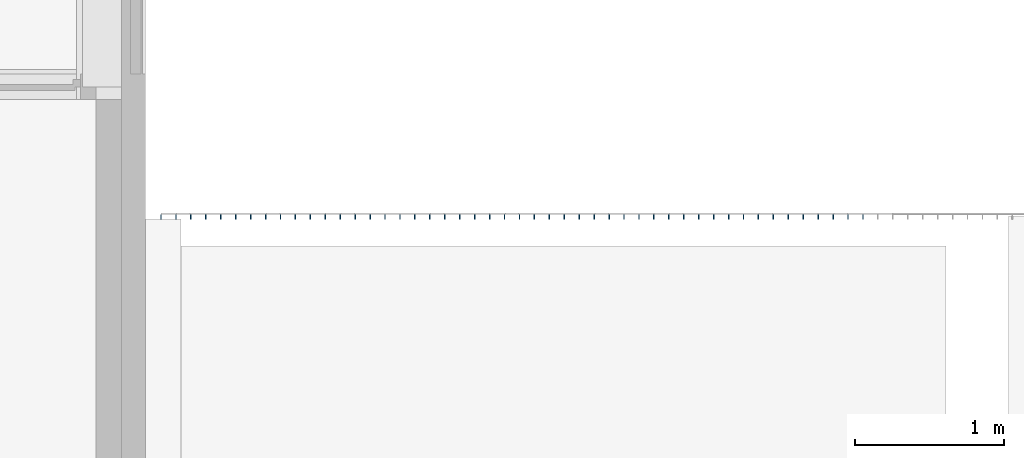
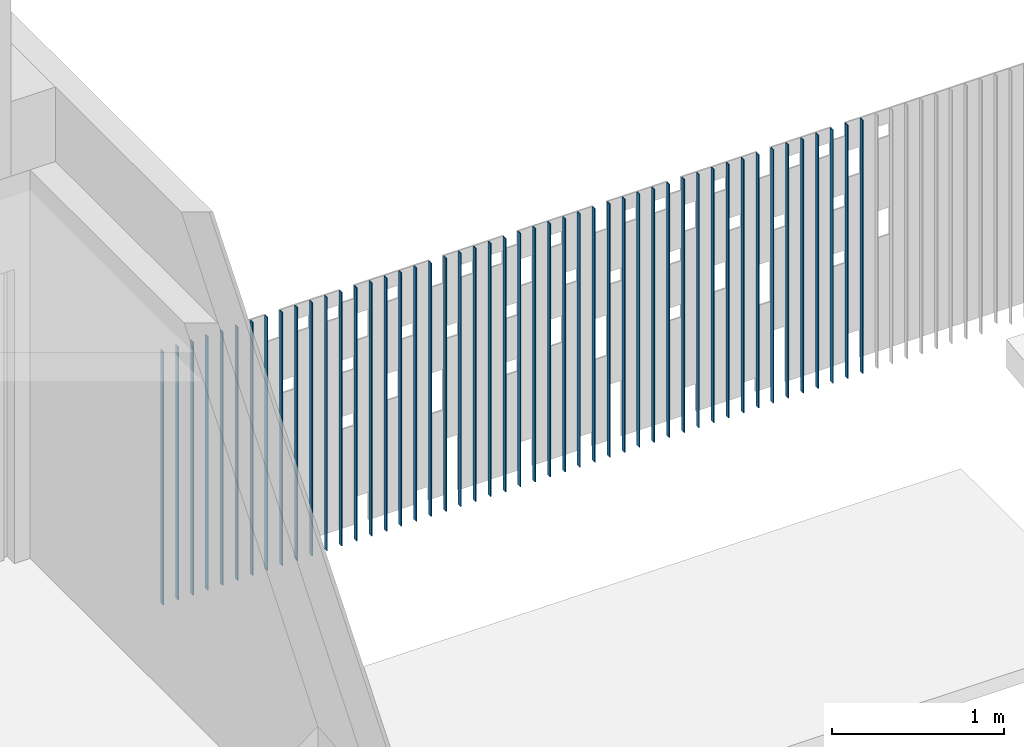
# One storey, part 1 of 51: 48 columns.
"""IFC2X3 building model written with IfcOpenShell, lengths in metres."""

from ifc_helpers import new_model, entity, si_unit, converted_unit, derived_unit, direction, frame, origin, origin_2d_with_axis, place, context, subcontext, project, spatial, rectangle, extrude, source, transform, mapped, material, type_object, type_shapes, element, save


model = new_model("IFC2X3")

# Units and contexts
model_context = context("Model", 3, precision=1e-05, world=origin(), true_north=direction((6.123031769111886e-17, 1.0)))
body_context = subcontext(model_context, "Body", "Model", "MODEL_VIEW")
ifc_project = project(units=[si_unit("LENGTHUNIT", "METRE"), si_unit("AREAUNIT", "SQUARE_METRE"), si_unit("VOLUMEUNIT", "CUBIC_METRE"), converted_unit("PLANEANGLEUNIT", "DEGREE", entity("IfcRatioMeasure", 0.017453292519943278), si_unit("PLANEANGLEUNIT", "RADIAN"), dimensions=[0, 0, 0, 0, 0, 0, 0]), si_unit("MASSUNIT", "GRAM", prefix="KILO"), derived_unit("MASSDENSITYUNIT", [(si_unit("MASSUNIT", "GRAM", prefix="KILO"), 1), (si_unit("LENGTHUNIT", "METRE"), -3)]), derived_unit("MOMENTOFINERTIAUNIT", [(si_unit("LENGTHUNIT", "METRE"), 4)]), si_unit("TIMEUNIT", "SECOND"), si_unit("FREQUENCYUNIT", "HERTZ"), si_unit("THERMODYNAMICTEMPERATUREUNIT", "DEGREE_CELSIUS"), derived_unit("THERMALTRANSMITTANCEUNIT", [(si_unit("MASSUNIT", "GRAM", prefix="KILO"), 1), (si_unit("THERMODYNAMICTEMPERATUREUNIT", "KELVIN"), -1), (si_unit("TIMEUNIT", "SECOND"), -3)]), derived_unit("THERMALCONDUCTANCEUNIT", [(si_unit("MASSUNIT", "GRAM", prefix="KILO"), 1), (si_unit("LENGTHUNIT", "METRE"), 1), (si_unit("THERMODYNAMICTEMPERATUREUNIT", "KELVIN"), -1), (si_unit("TIMEUNIT", "SECOND"), -3)]), derived_unit("VOLUMETRICFLOWRATEUNIT", [(si_unit("LENGTHUNIT", "METRE"), 3), (si_unit("TIMEUNIT", "SECOND"), -1)]), derived_unit("MASSFLOWRATEUNIT", [(si_unit("MASSUNIT", "GRAM", prefix="KILO"), 1), (si_unit("TIMEUNIT", "SECOND"), -1)]), derived_unit("ROTATIONALFREQUENCYUNIT", [(si_unit("TIMEUNIT", "SECOND"), -1)]), si_unit("ELECTRICCURRENTUNIT", "AMPERE"), si_unit("ELECTRICVOLTAGEUNIT", "VOLT"), si_unit("POWERUNIT", "WATT"), si_unit("FORCEUNIT", "NEWTON", prefix="KILO"), si_unit("ILLUMINANCEUNIT", "LUX"), si_unit("LUMINOUSFLUXUNIT", "LUMEN"), si_unit("LUMINOUSINTENSITYUNIT", "CANDELA"), derived_unit("USERDEFINED", [(si_unit("MASSUNIT", "GRAM", prefix="KILO"), -1), (si_unit("LENGTHUNIT", "METRE"), -2), (si_unit("TIMEUNIT", "SECOND"), 3), (si_unit("LUMINOUSFLUXUNIT", "LUMEN"), 1)]), derived_unit("USERDEFINED", [(si_unit("MASSUNIT", "GRAM", prefix="KILO"), 1), (si_unit("LENGTHUNIT", "METRE"), 3), (si_unit("TIMEUNIT", "SECOND"), -3), (si_unit("ELECTRICCURRENTUNIT", "AMPERE"), -2)]), derived_unit("USERDEFINED", [(si_unit("LENGTHUNIT", "METRE"), 2), (si_unit("TIMEUNIT", "SECOND"), -2)]), derived_unit("SOUNDPOWERUNIT", [(si_unit("MASSUNIT", "GRAM", prefix="KILO"), 1), (si_unit("LENGTHUNIT", "METRE"), 2), (si_unit("TIMEUNIT", "SECOND"), -3)]), derived_unit("SOUNDPRESSUREUNIT", [(si_unit("MASSUNIT", "GRAM", prefix="KILO"), 1), (si_unit("LENGTHUNIT", "METRE"), -1), (si_unit("TIMEUNIT", "SECOND"), -2)]), derived_unit("LINEARVELOCITYUNIT", [(si_unit("LENGTHUNIT", "METRE"), 1), (si_unit("TIMEUNIT", "SECOND"), -1)]), si_unit("PRESSUREUNIT", "PASCAL"), derived_unit("USERDEFINED", [(si_unit("LENGTHUNIT", "METRE"), -2), (si_unit("MASSUNIT", "GRAM", prefix="KILO"), 1), (si_unit("TIMEUNIT", "SECOND"), -2)]), derived_unit("LINEARFORCEUNIT", [(si_unit("MASSUNIT", "GRAM", prefix="KILO"), 1), (si_unit("LENGTHUNIT", "METRE"), 1), (si_unit("TIMEUNIT", "SECOND"), -2), (si_unit("LENGTHUNIT", "METRE"), -1)]), derived_unit("PLANARFORCEUNIT", [(si_unit("MASSUNIT", "GRAM", prefix="KILO"), 1), (si_unit("LENGTHUNIT", "METRE"), 1), (si_unit("TIMEUNIT", "SECOND"), -2), (si_unit("LENGTHUNIT", "METRE"), -2)]), derived_unit("SPECIFICHEATCAPACITYUNIT", [(si_unit("LENGTHUNIT", "METRE"), 2), (si_unit("TIMEUNIT", "SECOND"), -2), (si_unit("THERMODYNAMICTEMPERATUREUNIT", "KELVIN"), -1)]), derived_unit("VAPORPERMEABILITYUNIT", [(si_unit("TIMEUNIT", "SECOND"), 1), (si_unit("LENGTHUNIT", "METRE"), -1)]), derived_unit("DYNAMICVISCOSITYUNIT", [(si_unit("MASSUNIT", "GRAM", prefix="KILO"), 1), (si_unit("LENGTHUNIT", "METRE"), -1), (si_unit("TIMEUNIT", "SECOND"), -1)]), derived_unit("THERMALEXPANSIONCOEFFICIENTUNIT", [(si_unit("THERMODYNAMICTEMPERATUREUNIT", "KELVIN"), -1)])], contexts=[model_context])

# Site, building, storey
site_placement = place(None, origin())
site = spatial("IfcSite", under=ifc_project, at=site_placement, Name="Default", CompositionType="ELEMENT")
building_placement = place(site_placement, origin())
building = spatial("IfcBuilding", under=site, at=building_placement, CompositionType="ELEMENT")
storey_placement = place(building_placement, frame((0.0, 0.0, 3.06)))
storey = spatial("IfcBuildingStorey", under=building, at=storey_placement, Name="ÉTAGE", CompositionType="ELEMENT", Elevation=3.06)

# Columns
ifc_material = material(Name="Peinture - Gris foncé")
column_type = type_object("IfcColumnType", Name="Pot-005 441838:Pot-005 441838", PredefinedType="COLUMN", material=ifc_material)
shared_shape = source(origin(), body_context, "Body", "SweptSolid", [
    extrude(rectangle(XDim=0.03, YDim=0.006, at=origin_2d_with_axis()), frame((0.0, 0.0, 3.06), z_axis=(0.0, 0.0, 1.0), x_axis=(0.0, -1.0, 0.0)), (0.0, 0.0, 1.0), 1.7999999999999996),
])
type_shapes(column_type, [shared_shape])
for number, where, name in (
    (1, (133.16575228, 10.652209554, -3.06), "Pot-005"),
    (2, (133.06575228, 10.652209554, -3.06), "Pot-005"),
    (3, (132.96575228, 10.652209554, -3.06), "Pot-005"),
    (4, (132.86575228, 10.652209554, -3.06), "Pot-005"),
    (5, (132.76575227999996, 10.652209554, -3.06), "Pot-005"),
    (6, (132.66575227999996, 10.652209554, -3.06), "Pot-005"),
    (7, (132.56575227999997, 10.652209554, -3.06), "Pot-005"),
    (8, (132.46575228, 10.652209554, -3.06), "Pot-005"),
    (9, (132.36575228, 10.652209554, -3.06), "Pot-005"),
    (10, (132.26575228, 10.652209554, -3.06), "Pot-005"),
    (11, (132.16575228, 10.652209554, -3.06), "Pot-005"),
    (12, (132.06575228, 10.652209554, -3.06), "Pot-005"),
    (13, (131.96575228, 10.652209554, -3.06), "Pot-005"),
    (14, (131.86575228, 10.652209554, -3.06), "Pot-005"),
    (15, (131.76575228, 10.652209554, -3.06), "Pot-005"),
    (16, (131.66575228, 10.652209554, -3.06), "Pot-005"),
    (17, (131.56575228, 10.652209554, -3.06), "Pot-005"),
    (18, (131.46575228, 10.652209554, -3.06), "Pot-005"),
    (19, (131.36575227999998, 10.652209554, -3.06), "Pot-005"),
    (20, (131.26575228, 10.652209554, -3.06), "Pot-005"),
    (21, (131.16575228, 10.652209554, -3.06), "Pot-005"),
    (22, (131.06575228, 10.652209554, -3.06), "Pot-005"),
    (23, (130.96575228, 10.652209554, -3.06), "Pot-005"),
    (24, (130.86575228, 10.652209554, -3.06), "Pot-005"),
    (25, (130.76575228, 10.652209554, -3.06), "Pot-005"),
    (26, (130.66575228, 10.652209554, -3.06), "Pot-005"),
    (27, (130.56575228, 10.652209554, -3.06), "Pot-005"),
    (28, (130.46575228, 10.652209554, -3.06), "Pot-005"),
    (29, (130.36575228, 10.652209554, -3.06), "Pot-005"),
    (30, (130.26575228, 10.652209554, -3.06), "Pot-005"),
    (31, (130.16575228, 10.652209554, -3.06), "Pot-005"),
    (32, (130.06575228, 10.652209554, -3.06), "Pot-005"),
    (33, (129.96575228, 10.652209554, -3.06), "Pot-005"),
    (34, (129.86575228, 10.652209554, -3.06), "Pot-005"),
    (35, (129.76575228, 10.652209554, -3.06), "Pot-005"),
    (36, (129.66575228, 10.652209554, -3.06), "Pot-005"),
    (37, (129.56575228, 10.652209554, -3.06), "Pot-005"),
    (38, (129.46575228, 10.652209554, -3.06), "Pot-005"),
    (39, (129.36575228, 10.652209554, -3.06), "Pot-005"),
    (40, (129.26575228, 10.652209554, -3.06), "Pot-005"),
    (41, (129.16575228, 10.652209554, -3.06), "Pot-005"),
    (42, (129.06575228, 10.652209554, -3.06), "Pot-005"),
    (43, (128.96575228, 10.652209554, -3.06), "Pot-005"),
    (44, (128.86575228, 10.652209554, -3.06), "Pot-005"),
    (45, (128.76575228, 10.652209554, -3.06), "Pot-005"),
    (46, (128.66575228, 10.652209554, -3.06), "Pot-005"),
    (47, (128.56575228, 10.652209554, -3.06), "Pot-005"),
    (48, (128.46575228, 10.652209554, -3.06), "Pot-005"),
):
    element("IfcColumn", number, at=place(storey_placement, frame(where)), inside=storey, type_object=column_type, material=ifc_material, Name=name, ObjectType="Pot-005 441838:Pot-005 441838", context=body_context, shape_type="MappedRepresentation", body=[
        mapped(shared_shape, transform((0.0, 0.0, 0.0), scale=1.0)),
    ])

save(model, "model.ifc")
